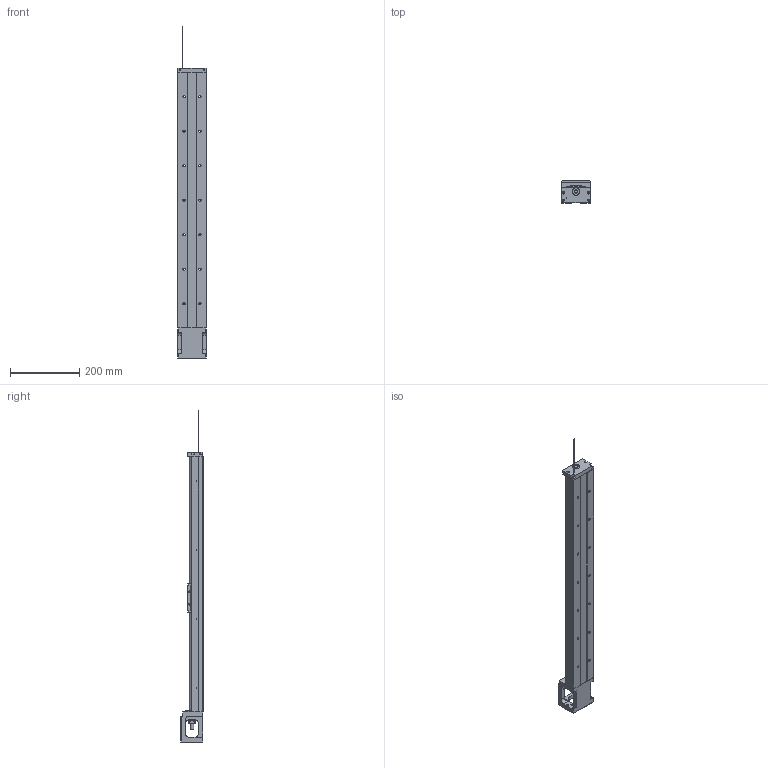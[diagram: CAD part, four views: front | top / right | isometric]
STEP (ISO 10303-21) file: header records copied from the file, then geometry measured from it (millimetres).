
FILE_DESCRIPTION(/* description */ (''),/* implementation_level */ '2;1');
FILE_NAME(/* name */ 'KP46S-740C02-D.stp',/* time_stamp */ '2020-07-03T14:00:18+08:00',/* author */ (''),/* organization */ (''),/* preprocessor_version */ 'ST-DEVELOPER v14',/* originating_system */ 'SIEMENS PLM Software NX 8.0',/* authorisation */ '');
FILE_SCHEMA (('AUTOMOTIVE_DESIGN { 1 0 10303 214 3 1 1 1 }'));
Length unit declared in the file: millimetre
Products named in the file (1): model2
Bounding box: 86 x 64 x 961.69 mm (x, y, z)
Volume: 1611932.8 mm3; surface area: 355104 mm2
Topology: 5 solids, 23 shells, 651 faces, 1703 edges, 1122 vertices
Faces by surface type: plane 293, cylinder 234, cone 66, bspline 50, torus 8
Full cylindrical faces by diameter (mm): 2 x2, 2.11 x2, 2.15 x8, 2.42 x6, 3 x4, 3.2 x4, 3.3 x6, 3.4 x8, 4 x2, 4.2 x4, 4.5 x8, 5 x6, 6 x8, 6.35 x2, 6.6 x14, 6.7 x2, 8.7 x4, 9.6 x1, 10 x4, 11 x14, 12 x1, 14.95 x2, 15 x1, 16 x2, 22 x3, 27.5 x1, 44 x1, 50 x1
Entity records: 32392 total; most frequent: CARTESIAN_POINT 13283, ORIENTED_EDGE 2896, DIRECTION 2847, EDGE_CURVE 1448, AXIS2_PLACEMENT_3D 1058, VERTEX_POINT 1054, EDGE_LOOP 919, LINE 731
